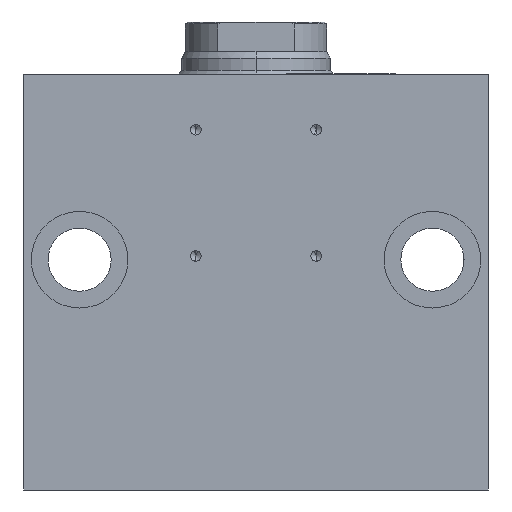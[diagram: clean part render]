
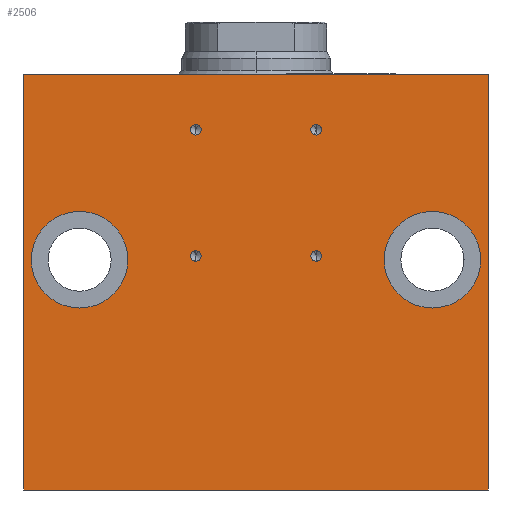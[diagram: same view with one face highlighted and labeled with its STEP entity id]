
A CAD part, left-side view. The second image highlights one B-rep face of the part: STEP entity #2506.
In plain terms, the highlighted planar face has unit normal (-1, 0, 0).
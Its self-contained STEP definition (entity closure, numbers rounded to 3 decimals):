
#3 = DIRECTION ( 'NONE',  ( 0., 0., 1. ) ) ;
#18 = CARTESIAN_POINT ( 'NONE',  ( -47.5, 62.5, -14. ) ) ;
#34 = CIRCLE ( 'NONE', #1069, 13. ) ;
#79 = VERTEX_POINT ( 'NONE', #1217 ) ;
#104 = CARTESIAN_POINT ( 'NONE',  ( -47.5, -16.2, -29. ) ) ;
#169 = AXIS2_PLACEMENT_3D ( 'NONE', #2909, #4051, #3021 ) ;
#202 = EDGE_CURVE ( 'NONE', #1742, #3051, #4004, .T. ) ;
#243 = DIRECTION ( 'NONE',  ( 0., 0., 1. ) ) ;
#290 = FACE_BOUND ( 'NONE', #3304, .T. ) ;
#293 = VECTOR ( 'NONE', #2319, 1000. ) ;
#319 = CARTESIAN_POINT ( 'NONE',  ( -47.5, -16.2, -61.575 ) ) ;
#339 = FACE_BOUND ( 'NONE', #1675, .T. ) ;
#373 = ORIENTED_EDGE ( 'NONE', *, *, #4245, .F. ) ;
#385 = ORIENTED_EDGE ( 'NONE', *, *, #3792, .F. ) ;
#393 = CARTESIAN_POINT ( 'NONE',  ( -47.5, -62.5, -126. ) ) ;
#425 = CIRCLE ( 'NONE', #169, 13. ) ;
#532 = VERTEX_POINT ( 'NONE', #3501 ) ;
#536 = EDGE_CURVE ( 'NONE', #3051, #1742, #899, .T. ) ;
#562 = DIRECTION ( 'NONE',  ( -1., 0., 0. ) ) ;
#691 = CARTESIAN_POINT ( 'NONE',  ( -47.5, 47.5, -64. ) ) ;
#692 = EDGE_CURVE ( 'NONE', #3756, #3151, #4638, .T. ) ;
#707 = VERTEX_POINT ( 'NONE', #4800 ) ;
#724 = CARTESIAN_POINT ( 'NONE',  ( -47.5, 16.2, -29. ) ) ;
#746 = AXIS2_PLACEMENT_3D ( 'NONE', #104, #2476, #3259 ) ;
#784 = CARTESIAN_POINT ( 'NONE',  ( -47.5, 16.2, -29. ) ) ;
#815 = EDGE_CURVE ( 'NONE', #4042, #3446, #4860, .T. ) ;
#821 = EDGE_CURVE ( 'NONE', #4242, #4738, #2897, .T. ) ;
#868 = ORIENTED_EDGE ( 'NONE', *, *, #3213, .F. ) ;
#899 = CIRCLE ( 'NONE', #746, 1.425 ) ;
#960 = DIRECTION ( 'NONE',  ( 0., -1., 0. ) ) ;
#1016 = CARTESIAN_POINT ( 'NONE',  ( -47.5, 16.2, -61.575 ) ) ;
#1033 = CARTESIAN_POINT ( 'NONE',  ( -47.5, -16.2, -29. ) ) ;
#1063 = AXIS2_PLACEMENT_3D ( 'NONE', #4798, #562, #2090 ) ;
#1069 = AXIS2_PLACEMENT_3D ( 'NONE', #691, #3778, #3754 ) ;
#1122 = EDGE_LOOP ( 'NONE', ( #1990, #2052 ) ) ;
#1176 = EDGE_CURVE ( 'NONE', #4242, #707, #1356, .T. ) ;
#1217 = CARTESIAN_POINT ( 'NONE',  ( -47.5, 16.2, -30.425 ) ) ;
#1288 = AXIS2_PLACEMENT_3D ( 'NONE', #784, #3052, #3856 ) ;
#1337 = DIRECTION ( 'NONE',  ( -1., 0., 0. ) ) ;
#1356 = LINE ( 'NONE', #2545, #4231 ) ;
#1380 = CARTESIAN_POINT ( 'NONE',  ( -47.5, 62.5, -126. ) ) ;
#1413 = CARTESIAN_POINT ( 'NONE',  ( -47.5, 62.5, -126. ) ) ;
#1427 = FACE_BOUND ( 'NONE', #1122, .T. ) ;
#1484 = VERTEX_POINT ( 'NONE', #2392 ) ;
#1514 = ORIENTED_EDGE ( 'NONE', *, *, #4458, .F. ) ;
#1577 = CARTESIAN_POINT ( 'NONE',  ( -47.5, 47.5, -64. ) ) ;
#1590 = ORIENTED_EDGE ( 'NONE', *, *, #536, .F. ) ;
#1675 = EDGE_LOOP ( 'NONE', ( #3574, #385 ) ) ;
#1689 = DIRECTION ( 'NONE',  ( -1., 0., 0. ) ) ;
#1733 = AXIS2_PLACEMENT_3D ( 'NONE', #1033, #4030, #2890 ) ;
#1742 = VERTEX_POINT ( 'NONE', #4053 ) ;
#1769 = AXIS2_PLACEMENT_3D ( 'NONE', #2637, #2405, #3115 ) ;
#1773 = VECTOR ( 'NONE', #3837, 1000. ) ;
#1776 = AXIS2_PLACEMENT_3D ( 'NONE', #4039, #1337, #243 ) ;
#1853 = CARTESIAN_POINT ( 'NONE',  ( -47.5, 16.2, -64.425 ) ) ;
#1934 = CIRCLE ( 'NONE', #3868, 1.425 ) ;
#1990 = ORIENTED_EDGE ( 'NONE', *, *, #2866, .F. ) ;
#2019 = CIRCLE ( 'NONE', #3880, 1.425 ) ;
#2052 = ORIENTED_EDGE ( 'NONE', *, *, #3819, .F. ) ;
#2090 = DIRECTION ( 'NONE',  ( 0., 0., 1. ) ) ;
#2254 = EDGE_LOOP ( 'NONE', ( #373, #3761, #3713, #3813 ) ) ;
#2270 = ORIENTED_EDGE ( 'NONE', *, *, #3931, .F. ) ;
#2319 = DIRECTION ( 'NONE',  ( 0., 0., 1. ) ) ;
#2338 = ORIENTED_EDGE ( 'NONE', *, *, #2948, .F. ) ;
#2387 = ORIENTED_EDGE ( 'NONE', *, *, #692, .F. ) ;
#2392 = CARTESIAN_POINT ( 'NONE',  ( -47.5, -47.5, -77. ) ) ;
#2405 = DIRECTION ( 'NONE',  ( -1., 0., 0. ) ) ;
#2429 = VECTOR ( 'NONE', #2875, 1000. ) ;
#2476 = DIRECTION ( 'NONE',  ( -1., 0., 0. ) ) ;
#2478 = DIRECTION ( 'NONE',  ( 0., 0., 1. ) ) ;
#2506 = ADVANCED_FACE ( 'NONE', ( #1427, #3393, #339, #2969, #3027, #290, #4531 ), #4112, .T. ) ;
#2545 = CARTESIAN_POINT ( 'NONE',  ( -47.5, 62.5, -126. ) ) ;
#2569 = DIRECTION ( 'NONE',  ( 0., 0., 1. ) ) ;
#2584 = ORIENTED_EDGE ( 'NONE', *, *, #202, .F. ) ;
#2637 = CARTESIAN_POINT ( 'NONE',  ( -47.5, 16.2, -63. ) ) ;
#2736 = CARTESIAN_POINT ( 'NONE',  ( -47.5, 62.5, -14. ) ) ;
#2739 = EDGE_CURVE ( 'NONE', #707, #2978, #4641, .T. ) ;
#2817 = DIRECTION ( 'NONE',  ( 0., 0., -1. ) ) ;
#2866 = EDGE_CURVE ( 'NONE', #532, #79, #4065, .T. ) ;
#2875 = DIRECTION ( 'NONE',  ( 0., 0., 1. ) ) ;
#2890 = DIRECTION ( 'NONE',  ( 0., 0., 1. ) ) ;
#2897 = LINE ( 'NONE', #1413, #2429 ) ;
#2909 = CARTESIAN_POINT ( 'NONE',  ( -47.5, -47.5, -64. ) ) ;
#2948 = EDGE_CURVE ( 'NONE', #4818, #4024, #1934, .T. ) ;
#2969 = FACE_BOUND ( 'NONE', #4625, .T. ) ;
#2978 = VERTEX_POINT ( 'NONE', #3946 ) ;
#3021 = DIRECTION ( 'NONE',  ( 0., 0., -1. ) ) ;
#3027 = FACE_BOUND ( 'NONE', #4275, .T. ) ;
#3051 = VERTEX_POINT ( 'NONE', #4823 ) ;
#3052 = DIRECTION ( 'NONE',  ( -1., 0., 0. ) ) ;
#3080 = LINE ( 'NONE', #18, #1773 ) ;
#3115 = DIRECTION ( 'NONE',  ( 0., 0., 1. ) ) ;
#3118 = DIRECTION ( 'NONE',  ( -1., 0., 0. ) ) ;
#3148 = CIRCLE ( 'NONE', #1063, 1.425 ) ;
#3151 = VERTEX_POINT ( 'NONE', #4525 ) ;
#3189 = DIRECTION ( 'NONE',  ( -1., 0., 0. ) ) ;
#3213 = EDGE_CURVE ( 'NONE', #1484, #4360, #425, .T. ) ;
#3259 = DIRECTION ( 'NONE',  ( 0., 0., 1. ) ) ;
#3304 = EDGE_LOOP ( 'NONE', ( #2387, #3515 ) ) ;
#3393 = FACE_BOUND ( 'NONE', #4134, .T. ) ;
#3446 = VERTEX_POINT ( 'NONE', #4516 ) ;
#3501 = CARTESIAN_POINT ( 'NONE',  ( -47.5, 16.2, -27.575 ) ) ;
#3515 = ORIENTED_EDGE ( 'NONE', *, *, #4032, .F. ) ;
#3574 = ORIENTED_EDGE ( 'NONE', *, *, #815, .F. ) ;
#3665 = DIRECTION ( 'NONE',  ( -1., 0., 0. ) ) ;
#3713 = ORIENTED_EDGE ( 'NONE', *, *, #1176, .T. ) ;
#3754 = DIRECTION ( 'NONE',  ( 0., 0., -1. ) ) ;
#3756 = VERTEX_POINT ( 'NONE', #4434 ) ;
#3761 = ORIENTED_EDGE ( 'NONE', *, *, #821, .F. ) ;
#3778 = DIRECTION ( 'NONE',  ( -1., 0., 0. ) ) ;
#3792 = EDGE_CURVE ( 'NONE', #3446, #4042, #3148, .T. ) ;
#3796 = AXIS2_PLACEMENT_3D ( 'NONE', #1577, #3118, #4688 ) ;
#3813 = ORIENTED_EDGE ( 'NONE', *, *, #2739, .T. ) ;
#3819 = EDGE_CURVE ( 'NONE', #79, #532, #2019, .T. ) ;
#3837 = DIRECTION ( 'NONE',  ( 0., -1., 0. ) ) ;
#3856 = DIRECTION ( 'NONE',  ( 0., 0., 1. ) ) ;
#3859 = CARTESIAN_POINT ( 'NONE',  ( -47.5, 62.5, -126. ) ) ;
#3868 = AXIS2_PLACEMENT_3D ( 'NONE', #4412, #1689, #2478 ) ;
#3880 = AXIS2_PLACEMENT_3D ( 'NONE', #724, #4975, #3 ) ;
#3890 = AXIS2_PLACEMENT_3D ( 'NONE', #4344, #3189, #2817 ) ;
#3931 = EDGE_CURVE ( 'NONE', #4024, #4818, #4450, .T. ) ;
#3946 = CARTESIAN_POINT ( 'NONE',  ( -47.5, -62.5, -14. ) ) ;
#4004 = CIRCLE ( 'NONE', #1733, 1.425 ) ;
#4024 = VERTEX_POINT ( 'NONE', #1016 ) ;
#4030 = DIRECTION ( 'NONE',  ( -1., 0., 0. ) ) ;
#4032 = EDGE_CURVE ( 'NONE', #3151, #3756, #34, .T. ) ;
#4039 = CARTESIAN_POINT ( 'NONE',  ( -47.5, -16.2, -63. ) ) ;
#4042 = VERTEX_POINT ( 'NONE', #319 ) ;
#4051 = DIRECTION ( 'NONE',  ( -1., 0., 0. ) ) ;
#4053 = CARTESIAN_POINT ( 'NONE',  ( -47.5, -16.2, -27.575 ) ) ;
#4065 = CIRCLE ( 'NONE', #1288, 1.425 ) ;
#4112 = PLANE ( 'NONE',  #4331 ) ;
#4134 = EDGE_LOOP ( 'NONE', ( #2584, #1590 ) ) ;
#4219 = CIRCLE ( 'NONE', #3890, 13. ) ;
#4231 = VECTOR ( 'NONE', #960, 1000. ) ;
#4242 = VERTEX_POINT ( 'NONE', #3859 ) ;
#4245 = EDGE_CURVE ( 'NONE', #4738, #2978, #3080, .T. ) ;
#4275 = EDGE_LOOP ( 'NONE', ( #1514, #868 ) ) ;
#4331 = AXIS2_PLACEMENT_3D ( 'NONE', #1380, #3665, #2569 ) ;
#4344 = CARTESIAN_POINT ( 'NONE',  ( -47.5, -47.5, -64. ) ) ;
#4360 = VERTEX_POINT ( 'NONE', #4401 ) ;
#4401 = CARTESIAN_POINT ( 'NONE',  ( -47.5, -47.5, -51. ) ) ;
#4412 = CARTESIAN_POINT ( 'NONE',  ( -47.5, 16.2, -63. ) ) ;
#4434 = CARTESIAN_POINT ( 'NONE',  ( -47.5, 47.5, -51. ) ) ;
#4450 = CIRCLE ( 'NONE', #1769, 1.425 ) ;
#4458 = EDGE_CURVE ( 'NONE', #4360, #1484, #4219, .T. ) ;
#4516 = CARTESIAN_POINT ( 'NONE',  ( -47.5, -16.2, -64.425 ) ) ;
#4525 = CARTESIAN_POINT ( 'NONE',  ( -47.5, 47.5, -77. ) ) ;
#4531 = FACE_OUTER_BOUND ( 'NONE', #2254, .T. ) ;
#4625 = EDGE_LOOP ( 'NONE', ( #2270, #2338 ) ) ;
#4638 = CIRCLE ( 'NONE', #3796, 13. ) ;
#4641 = LINE ( 'NONE', #393, #293 ) ;
#4688 = DIRECTION ( 'NONE',  ( 0., 0., -1. ) ) ;
#4738 = VERTEX_POINT ( 'NONE', #2736 ) ;
#4798 = CARTESIAN_POINT ( 'NONE',  ( -47.5, -16.2, -63. ) ) ;
#4800 = CARTESIAN_POINT ( 'NONE',  ( -47.5, -62.5, -126. ) ) ;
#4818 = VERTEX_POINT ( 'NONE', #1853 ) ;
#4823 = CARTESIAN_POINT ( 'NONE',  ( -47.5, -16.2, -30.425 ) ) ;
#4860 = CIRCLE ( 'NONE', #1776, 1.425 ) ;
#4975 = DIRECTION ( 'NONE',  ( -1., 0., 0. ) ) ;
